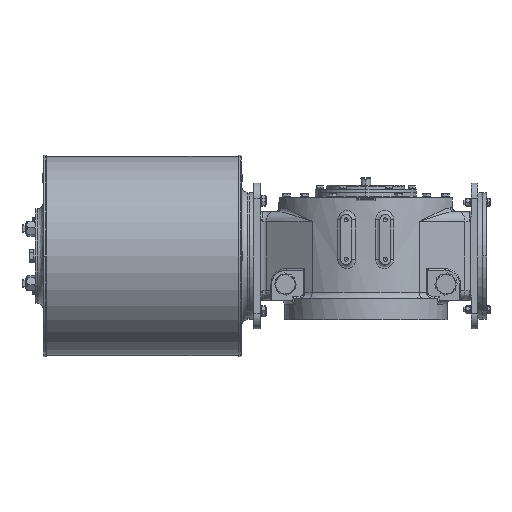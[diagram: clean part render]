
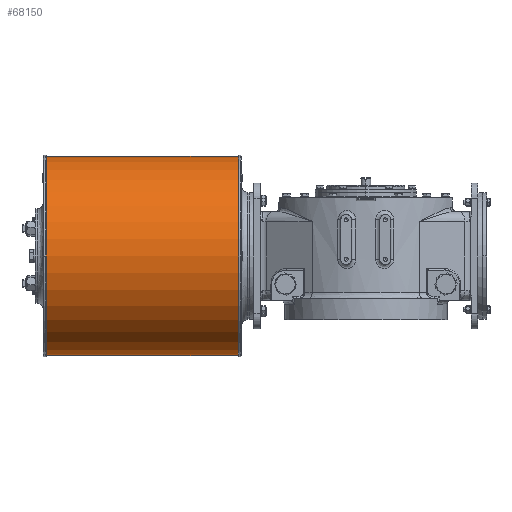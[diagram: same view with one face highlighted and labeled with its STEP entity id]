
A CAD part, front view. The second image highlights one B-rep face of the part: STEP entity #68150.
In plain terms, the highlighted cylindrical face has radius 254 mm (diameter 508 mm), a partial arc.
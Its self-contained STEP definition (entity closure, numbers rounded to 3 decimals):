
#1384 = EDGE_CURVE ( 'NONE', #2697, #73553, #45441, .T. ) ;
#1961 = DIRECTION ( 'NONE',  ( -1., 0., 0. ) ) ;
#2341 = LINE ( 'NONE', #40686, #59903 ) ;
#2697 = VERTEX_POINT ( 'NONE', #67147 ) ;
#3203 = ORIENTED_EDGE ( 'NONE', *, *, #1384, .T. ) ;
#4615 = CIRCLE ( 'NONE', #71112, 254. ) ;
#4930 = DIRECTION ( 'NONE',  ( -1., 0., 0. ) ) ;
#5092 = DIRECTION ( 'NONE',  ( 0., 0., 1. ) ) ;
#5341 = DIRECTION ( 'NONE',  ( -1., 0., 0. ) ) ;
#7724 = DIRECTION ( 'NONE',  ( -1., 0., 0. ) ) ;
#8333 = VECTOR ( 'NONE', #4930, 1000. ) ;
#9184 = AXIS2_PLACEMENT_3D ( 'NONE', #47141, #7724, #41948 ) ;
#9808 = VERTEX_POINT ( 'NONE', #36336 ) ;
#19298 = EDGE_CURVE ( 'NONE', #2697, #52533, #2341, .T. ) ;
#25671 = CARTESIAN_POINT ( 'NONE',  ( -325.5, 140., 367. ) ) ;
#26654 = DIRECTION ( 'NONE',  ( 1., 0., 0. ) ) ;
#28012 = CARTESIAN_POINT ( 'NONE',  ( -325.5, 140., 113. ) ) ;
#29993 = AXIS2_PLACEMENT_3D ( 'NONE', #28012, #5341, #51068 ) ;
#32590 = ORIENTED_EDGE ( 'NONE', *, *, #19298, .F. ) ;
#33189 = CARTESIAN_POINT ( 'NONE',  ( -325.5, 140., 367. ) ) ;
#33360 = CARTESIAN_POINT ( 'NONE',  ( -815.5, 140., 113. ) ) ;
#35633 = ORIENTED_EDGE ( 'NONE', *, *, #72103, .T. ) ;
#36336 = CARTESIAN_POINT ( 'NONE',  ( -815.5, 140., 367. ) ) ;
#38747 = LINE ( 'NONE', #33189, #8333 ) ;
#40686 = CARTESIAN_POINT ( 'NONE',  ( -325.5, 140., -141. ) ) ;
#41948 = DIRECTION ( 'NONE',  ( 0., 0., 1. ) ) ;
#45441 = CIRCLE ( 'NONE', #29993, 254. ) ;
#47141 = CARTESIAN_POINT ( 'NONE',  ( -325.5, 140., 113. ) ) ;
#51068 = DIRECTION ( 'NONE',  ( 0., 0., 1. ) ) ;
#52363 = CYLINDRICAL_SURFACE ( 'NONE', #9184, 254. ) ;
#52533 = VERTEX_POINT ( 'NONE', #62389 ) ;
#52597 = EDGE_LOOP ( 'NONE', ( #32590, #3203, #35633, #63118 ) ) ;
#59903 = VECTOR ( 'NONE', #1961, 1000. ) ;
#62389 = CARTESIAN_POINT ( 'NONE',  ( -815.5, 140., -141. ) ) ;
#63118 = ORIENTED_EDGE ( 'NONE', *, *, #70652, .T. ) ;
#67147 = CARTESIAN_POINT ( 'NONE',  ( -325.5, 140., -141. ) ) ;
#68150 = ADVANCED_FACE ( 'NONE', ( #69804 ), #52363, .T. ) ;
#69804 = FACE_OUTER_BOUND ( 'NONE', #52597, .T. ) ;
#70652 = EDGE_CURVE ( 'NONE', #9808, #52533, #4615, .T. ) ;
#71112 = AXIS2_PLACEMENT_3D ( 'NONE', #33360, #26654, #5092 ) ;
#72103 = EDGE_CURVE ( 'NONE', #73553, #9808, #38747, .T. ) ;
#73553 = VERTEX_POINT ( 'NONE', #25671 ) ;
